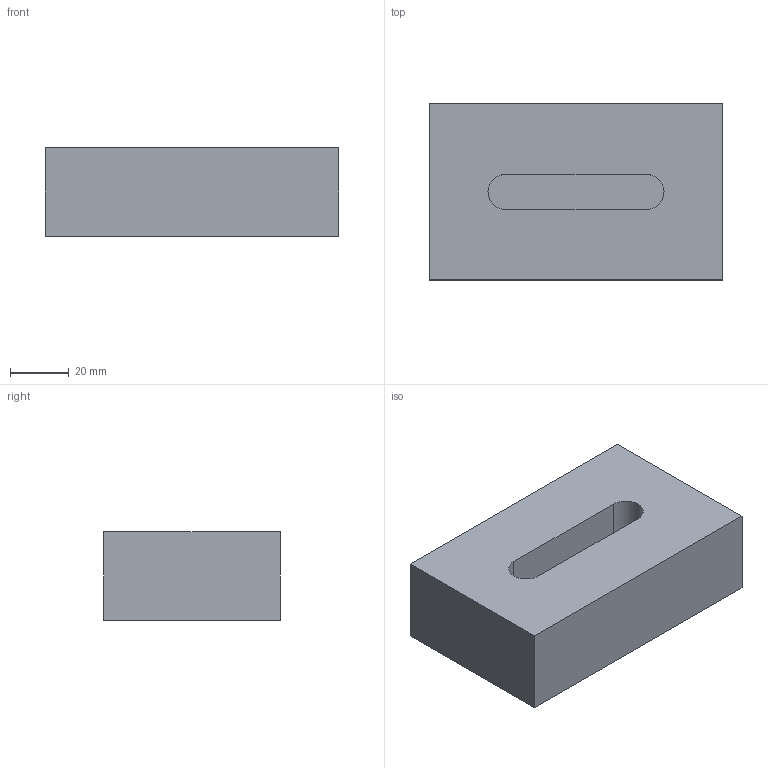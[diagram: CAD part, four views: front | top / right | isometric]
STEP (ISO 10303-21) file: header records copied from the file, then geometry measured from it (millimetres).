
FILE_DESCRIPTION(('Open CASCADE Model'),'2;1');
FILE_NAME('Open CASCADE Shape Model','2026-03-24T09:37:59',('Author'),( 'Open CASCADE'),'Open CASCADE STEP processor 7.8','Open CASCADE 7.8' ,'Unknown');
FILE_SCHEMA(('AUTOMOTIVE_DESIGN { 1 0 10303 214 1 1 1 1 }'));
Length unit declared in the file: millimetre
Products named in the file (1): Open CASCADE STEP translator 7.8 4
Bounding box: 100 x 60 x 30 mm (x, y, z)
Volume: 169663.5 mm3; surface area: 23605.5 mm2
Topology: 1 solids, 1 shells, 11 faces, 24 edges, 16 vertices
Faces by surface type: plane 9, cylinder 2
Entity records: 630 total; most frequent: CARTESIAN_POINT 112, DIRECTION 98, LINE 64, VECTOR 64, ORIENTED_EDGE 48, PCURVE 48, DEFINITIONAL_REPRESENTATION 48, EDGE_CURVE 24
